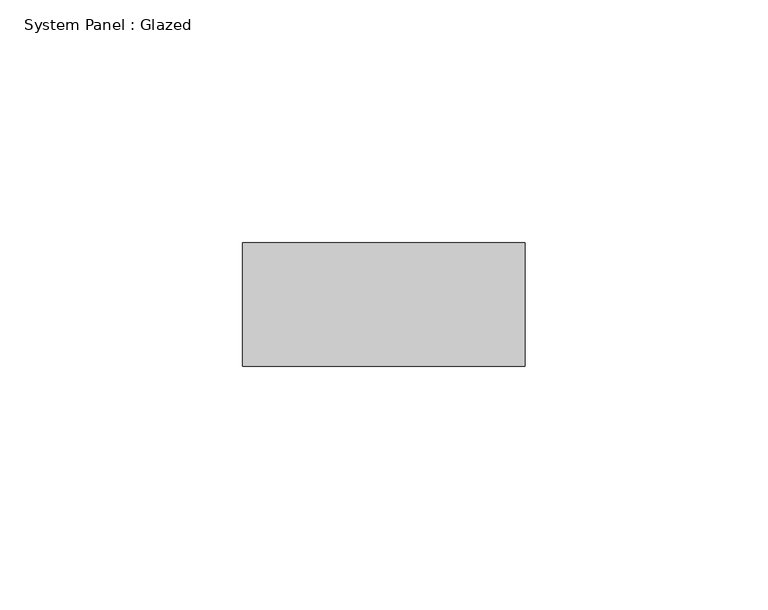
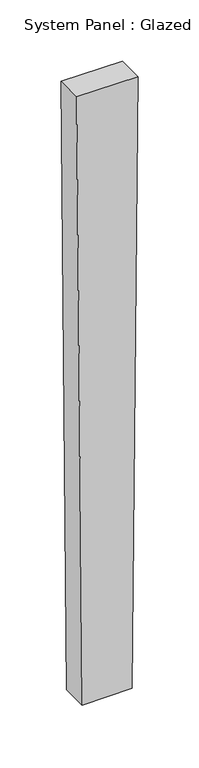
"""IFC4 building model written with IfcOpenShell, lengths in millimetres: plate geometry, System Panel : Glazed."""

from ifc_helpers import new_model, si_unit, frame, origin, place, context, project, spatial, polyline, outline, extrude, source, transform, mapped, element, save


def system_panel_glazed_80a3d3e6(model_context):
    return source(origin(), model_context, "Body", "SweptSolid", [
        extrude(outline(polyline([(0.0, -23.5786596), (0.0, 23.5786596), (609.5756424, 29.0280782), (609.5756424, -29.0280782), (0.0, -23.5786596)])), frame((0.0, -44.45, 0.0), z_axis=(0.0, 1.0, 0.0), x_axis=(0.0, 0.0, 1.0)), (0.0, 0.0, 1.0), 25.4),
    ])


if __name__ == "__main__":
    model = new_model("IFC4")
    model_context = context("Model", 3, world=origin())
    ifc_project = project(units=[si_unit("LENGTHUNIT", "METRE", prefix="MILLI")], contexts=[model_context])
    site = spatial("IfcSite", under=ifc_project)
    building = spatial("IfcBuilding", under=site)
    placement = place(None, origin())
    system_panel_glazed_shape = system_panel_glazed_80a3d3e6(model_context)
    element("IfcPlate", 1, ObjectType="System Panel : Glazed", at=placement, inside=building, context=model_context, shape_type="MappedRepresentation", body=[
        mapped(system_panel_glazed_shape, transform((0.0, 0.0, 0.0), x_axis=(1.0, 0.0, 0.0), y_axis=(0.0, 1.0, 0.0), z_axis=(0.0, 0.0, 1.0))),
    ])
    save(model, "model.ifc")
